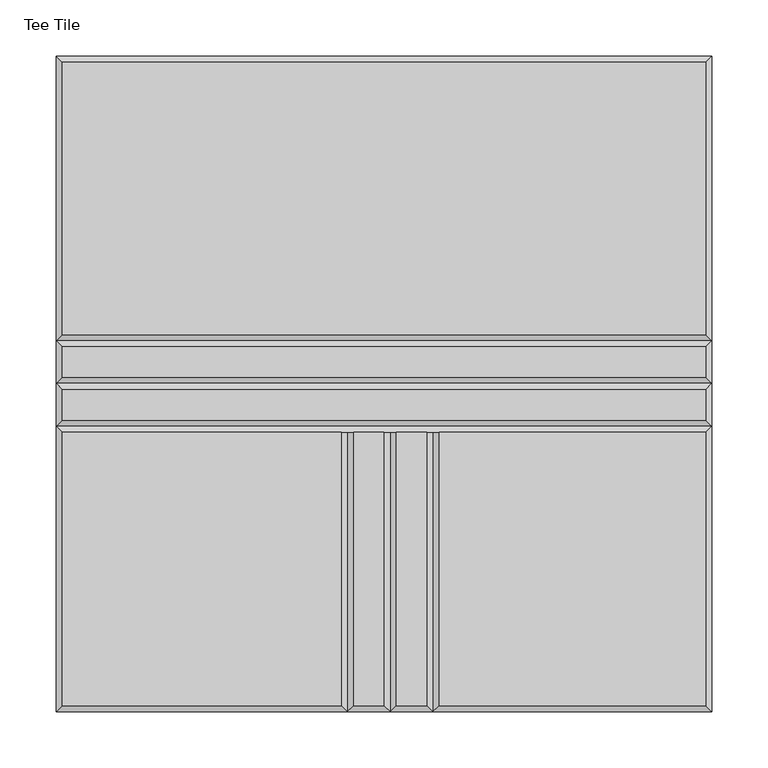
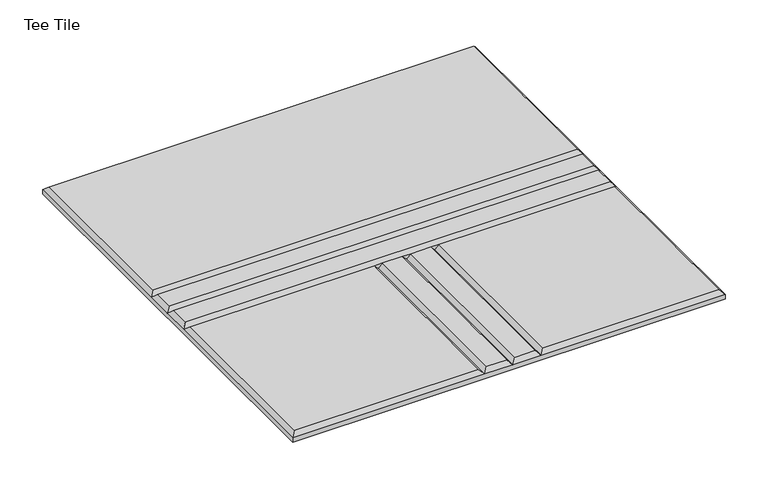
"""IFC4 building model written with IfcOpenShell, lengths in millimetres: proxy geometry, Wall-Panel-Kirei-EchoPanel-Echotile-Racetrack : Tee Tile."""

from ifc_helpers import new_model, si_unit, origin, place, context, project, spatial, faceted_brep, source, transform, mapped, element, save


def tee_tile_2c00e154(model_context):
    return source(origin(), model_context, "Body", "Brep", [
        faceted_brep([(-30.9054687, 286.5945312, 12.0054687), (-604.0945312, 286.5945312, 12.0054687), (-604.0945312, 44.0630399, 12.0054687), (-30.9054687, 44.0630399, 12.0054687), (-30.9054687, 5.9630399, 12.0054687), (-30.9054687, 33.0521024, 12.0054687), (-604.0945312, 33.0521024, 12.0054687), (-604.0945312, 5.9630399, 12.0054687), (-30.9054687, -286.5945313, 12.0054687), (-30.9054687, -43.1478976, 12.0054687), (-268.3890625, -43.1478976, 12.0054687), (-268.3890625, -286.5945313, 12.0054687), (-30.9054687, -32.1369601, 12.0054687), (-30.9054687, -5.0478976, 12.0054687), (-604.0945312, -5.0478976, 12.0054687), (-604.0945312, -32.1369601, 12.0054687), (-604.0945312, -43.1478976, 12.0054687), (-604.0945312, -286.5945313, 12.0054687), (-355.6, -286.5945313, 12.0054687), (-355.6, -43.1478976, 12.0054687), (-306.4890625, -286.5945313, 12.0054687), (-279.4, -286.5945313, 12.0054687), (-279.4, -43.1478976, 12.0054687), (-306.4890625, -43.1478976, 12.0054687), (-344.5890625, -286.5945313, 12.0054687), (-317.5, -286.5945313, 12.0054687), (-317.5, -43.1478976, 12.0054687), (-344.5890625, -43.1478976, 12.0054687), (-25.4, 292.1, 0.0), (-25.4, -292.1, 0.0), (-609.6, -292.1, 0.0), (-609.6, 292.1, 0.0), (-609.6, 292.1, 6.5), (-25.4, 292.1, 6.5), (-609.6, -292.1, 6.5), (-609.6, -37.6424289, 6.5), (-609.6, 0.4575711, 6.5), (-609.6, 38.5575711, 6.5), (-25.4, -292.1, 6.5), (-273.8945313, -292.1, 6.5), (-311.9945312, -292.1, 6.5), (-350.0945312, -292.1, 6.5), (-25.4, 38.5575711, 6.5), (-25.4, 0.4575711, 6.5), (-25.4, -37.6424289, 6.5), (-273.8945313, -43.1478976, 6.5), (-311.9945313, -43.1478976, 6.5), (-350.0945313, -43.1478976, 6.5)], [[[0, 1, 2, 3]], [[4, 5, 6, 7]], [[8, 9, 10, 11]], [[12, 13, 14, 15]], [[16, 17, 18, 19]], [[20, 21, 22, 23]], [[24, 25, 26, 27]], [[28, 29, 30, 31]], [[28, 31, 32, 33]], [[31, 30, 34, 35, 36, 37, 32]], [[30, 29, 38, 39, 40, 41, 34]], [[29, 28, 33, 42, 43, 44, 38]], [[5, 4, 43, 42]], [[13, 12, 44, 43]], [[33, 0, 3, 42]], [[8, 38, 44, 9]], [[0, 33, 32, 1]], [[7, 6, 37, 36]], [[15, 14, 36, 35]], [[1, 32, 37, 2]], [[34, 17, 16, 35]], [[21, 20, 40, 39]], [[25, 24, 41, 40]], [[38, 8, 11, 39]], [[17, 34, 41, 18]], [[42, 37, 6, 5]], [[37, 42, 3, 2]], [[43, 36, 14, 13]], [[36, 43, 4, 7]], [[44, 35, 16, 19, 27, 26, 23, 22, 10, 9]], [[35, 44, 12, 15]], [[22, 45, 10]], [[26, 46, 23]], [[19, 47, 27]], [[45, 22, 21, 39]], [[10, 45, 39, 11]], [[46, 26, 25, 40]], [[23, 46, 40, 20]], [[47, 19, 18, 41]], [[27, 47, 41, 24]]]),
    ])


if __name__ == "__main__":
    model = new_model("IFC4")
    model_context = context("Model", 3, world=origin())
    ifc_project = project(units=[si_unit("LENGTHUNIT", "METRE", prefix="MILLI")], contexts=[model_context])
    site = spatial("IfcSite", under=ifc_project)
    building = spatial("IfcBuilding", under=site)
    placement = place(None, origin())
    tee_tile_shape = tee_tile_2c00e154(model_context)
    element("IfcBuildingElementProxy", 1, Name="Wall-Panel-Kirei-EchoPanel-Echotile-Racetrack : Tee Tile", ObjectType="Wall-Panel-Kirei-EchoPanel-Echotile-Racetrack : Tee Tile", at=placement, inside=building, context=model_context, shape_type="MappedRepresentation", body=[
        mapped(tee_tile_shape, transform((0.0, 0.0, 0.0), x_axis=(1.0, 0.0, 0.0), y_axis=(0.0, 1.0, 0.0), z_axis=(0.0, 0.0, 1.0))),
    ])
    save(model, "model.ifc")
